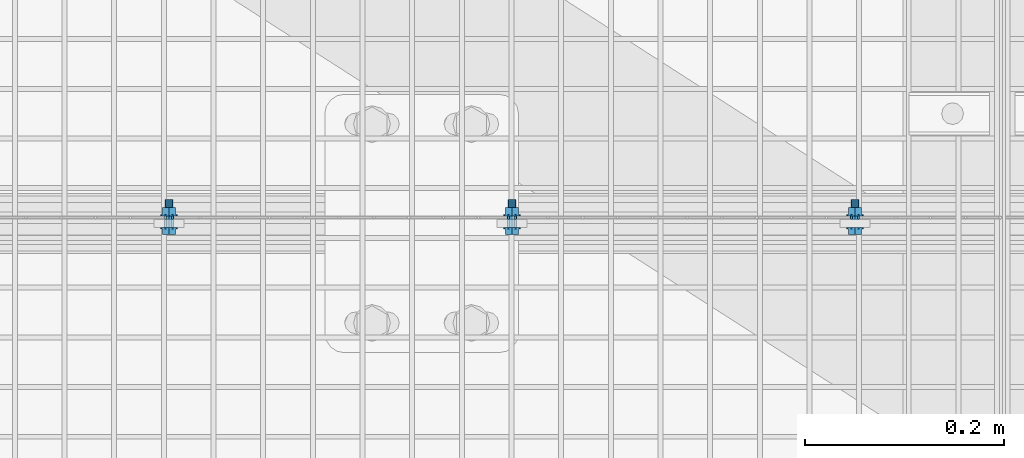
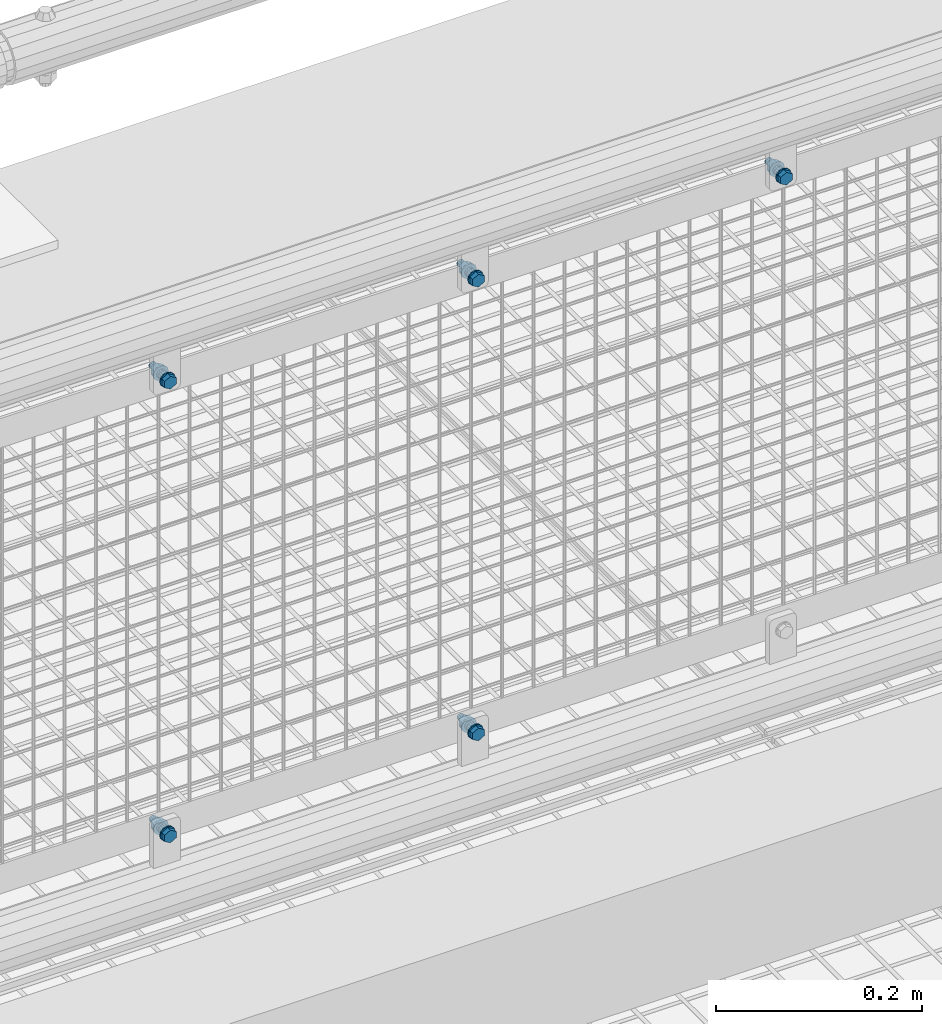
# One storey, part 90 of 1530: 5 mechanical fasteners.
"""IFC2X3 building model written with IfcOpenShell, lengths in millimetres."""

from ifc_helpers import new_model, si_unit, frame, origin_with_axes, place, context, subcontext, project, spatial, faceted_brep, source, transform, mapped, material, type_object, element, save


model = new_model("IFC2X3")

# Units and contexts
model_context = context("Model", 3, precision=1e-05, world=origin_with_axes())
body_context = subcontext(model_context, "Body", "Model", "MODEL_VIEW")
ifc_project = project(units=[si_unit("LENGTHUNIT", "METRE", prefix="MILLI"), si_unit("AREAUNIT", "SQUARE_METRE"), si_unit("VOLUMEUNIT", "CUBIC_METRE"), si_unit("MASSUNIT", "GRAM", prefix="KILO"), si_unit("TIMEUNIT", "SECOND"), si_unit("PLANEANGLEUNIT", "RADIAN"), si_unit("SOLIDANGLEUNIT", "STERADIAN"), si_unit("THERMODYNAMICTEMPERATUREUNIT", "DEGREE_CELSIUS"), si_unit("LUMINOUSINTENSITYUNIT", "LUMEN")], contexts=[model_context])

# Site, building, storey
site_placement = place(None, origin_with_axes())
site = spatial("IfcSite", under=ifc_project, at=site_placement, Name="Brattvåg", CompositionType="ELEMENT")
building_placement = place(site_placement, origin_with_axes())
building = spatial("IfcBuilding", under=site, at=building_placement, Name="Undefined", CompositionType="ELEMENT")
storey_placement = place(building_placement, origin_with_axes())
storey = spatial("IfcBuildingStorey", under=building, at=storey_placement, Name="Undefined", CompositionType="ELEMENT", Elevation=0.0)

# Mechanical fasteners
ifc_material = material(Name="8")
mechanical_fastener_type = type_object("IfcMechanicalFastenerType", Name="Bolt assembly")
shared_shape_1 = source(origin_with_axes(), body_context, "Body", "Brep", [
    faceted_brep([(7.50555349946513, -6.90000021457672, 0.0), (3.75277674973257, -6.90000021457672, 6.5), (-3.75277674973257, -6.90000021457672, 6.5), (-7.50555349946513, -6.90000021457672, 9.19165206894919e-16), (-3.75277674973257, -6.90000021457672, -6.5), (3.75277674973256, -6.90000021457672, -6.5), (3.75277674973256, -1.60000002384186, -6.5), (-3.75277674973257, -1.60000002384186, -6.5), (-7.50555349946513, -1.60000002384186, 9.19165206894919e-16), (-3.75277674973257, -1.60000002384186, 6.5), (3.75277674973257, -1.60000002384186, 6.5), (7.50555349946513, -1.60000002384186, 0.0), (4.0, -1.60000002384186, 0.0), (3.46410161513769, -1.60000002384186, 2.00000000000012), (1.99999999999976, -1.60000002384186, 3.46410161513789), (-4.14534392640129e-13, -1.60000002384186, 4.0), (-2.00000000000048, -1.60000002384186, 3.46410161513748), (-3.4641016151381, -1.60000002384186, 1.9999999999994), (-4.0, -1.60000002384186, -8.29068785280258e-13), (-3.46410161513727, -1.60000002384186, -2.00000000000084), (-1.99999999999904, -1.60000002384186, -3.46410161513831), (1.23916228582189e-12, -1.60000002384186, -4.0), (2.00000000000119, -1.60000002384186, -3.46410161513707), (3.46410161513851, -1.60000002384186, -1.99999999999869), (3.46410161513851, 28.3999999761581, -1.99999999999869), (2.00000000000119, 28.3999999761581, -3.46410161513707), (1.23916228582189e-12, 28.3999999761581, -4.0), (-1.99999999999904, 28.3999999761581, -3.46410161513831), (-3.46410161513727, 28.3999999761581, -2.00000000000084), (-4.0, 28.3999999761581, -8.29068785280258e-13), (-3.4641016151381, 28.3999999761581, 1.9999999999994), (-2.00000000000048, 28.3999999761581, 3.46410161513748), (-4.14534392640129e-13, 28.3999999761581, 4.0), (1.99999999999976, 28.3999999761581, 3.46410161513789), (3.46410161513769, 28.3999999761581, 2.00000000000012), (4.0, 28.3999999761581, 0.0), (8.5, -1.60000002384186, 0.0), (7.36121593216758, -1.60000002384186, 4.25000000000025), (4.24999999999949, -1.60000002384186, 7.36121593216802), (-8.80885584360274e-13, -1.60000002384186, 8.5), (-4.25000000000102, -1.60000002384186, 7.36121593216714), (-7.36121593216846, -1.60000002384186, 4.24999999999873), (-8.5, -1.60000002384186, -1.76177116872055e-12), (-7.3612159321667, -1.60000002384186, -4.25000000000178), (-4.24999999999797, -1.60000002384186, -7.3612159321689), (2.63321985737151e-12, -1.60000002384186, -8.5), (4.25000000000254, -1.60000002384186, -7.36121593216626), (7.36121593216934, -1.60000002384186, -4.24999999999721), (7.36121593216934, 0.0, -4.24999999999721), (4.25000000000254, 0.0, -7.36121593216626), (2.63321985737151e-12, 0.0, -8.5), (-4.24999999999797, 0.0, -7.3612159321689), (-7.3612159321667, 0.0, -4.25000000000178), (-8.5, 0.0, -1.76177116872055e-12), (-7.36121593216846, 0.0, 4.24999999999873), (-4.25000000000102, 0.0, 7.36121593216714), (-8.80885584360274e-13, 0.0, 8.5), (4.24999999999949, 0.0, 7.36121593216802), (7.36121593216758, 0.0, 4.25000000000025), (8.5, 0.0, 0.0), (8.5, 11.5015258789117, 0.0), (7.36121593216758, 11.5015258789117, 4.25000000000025), (4.24999999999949, 11.5015258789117, 7.36121593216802), (-8.80885584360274e-13, 11.5015258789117, 8.5), (-4.25000000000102, 11.5015258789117, 7.36121593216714), (-7.36121593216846, 11.5015258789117, 4.24999999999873), (-8.5, 11.5015258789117, -1.76177116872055e-12), (-7.3612159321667, 11.5015258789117, -4.25000000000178), (-4.24999999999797, 11.5015258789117, -7.3612159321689), (2.63321985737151e-12, 11.5015258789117, -8.5), (4.25000000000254, 11.5015258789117, -7.36121593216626), (7.36121593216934, 11.5015258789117, -4.24999999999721), (7.36121593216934, 13.1015259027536, -4.24999999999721), (4.25000000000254, 13.1015259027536, -7.36121593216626), (2.63321985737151e-12, 13.1015259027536, -8.5), (-4.24999999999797, 13.1015259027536, -7.3612159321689), (-7.3612159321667, 13.1015259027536, -4.25000000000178), (-8.5, 13.1015259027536, -1.76177116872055e-12), (-7.36121593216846, 13.1015259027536, 4.24999999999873), (-4.25000000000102, 13.1015259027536, 7.36121593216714), (-8.80885584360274e-13, 13.1015259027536, 8.5), (4.24999999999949, 13.1015259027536, 7.36121593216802), (7.36121593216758, 13.1015259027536, 4.25000000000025), (8.5, 13.1015259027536, 0.0), (7.50555349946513, 13.1015259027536, 0.0), (3.75277674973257, 13.1015259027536, 6.5), (-3.75277674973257, 13.1015259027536, 6.5), (-7.50555349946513, 13.1015259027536, 9.19165206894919e-16), (-3.75277674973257, 13.1015259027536, -6.5), (3.75277674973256, 13.1015259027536, -6.5), (3.75277674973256, 19.9015260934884, -6.5), (-3.75277674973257, 19.9015260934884, -6.5), (-7.50555349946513, 19.9015260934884, 9.19165206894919e-16), (-3.75277674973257, 19.9015260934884, 6.5), (3.75277674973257, 19.9015260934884, 6.5), (7.50555349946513, 19.9015260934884, 0.0)], [[[0, 1, 2, 3, 4, 5]], [[6, 7, 8, 9, 10, 11]], [[0, 11, 10, 1]], [[1, 10, 9, 2]], [[2, 9, 8, 3]], [[3, 8, 7, 4]], [[4, 7, 6, 5]], [[5, 6, 11, 0]], [[12, 13, 14, 15, 16, 17, 18, 19, 20, 21, 22, 23]], [[24, 25, 26, 27, 28, 29, 30, 31, 32, 33, 34, 35]], [[12, 35, 34, 13]], [[13, 34, 33, 14]], [[14, 33, 32, 15]], [[15, 32, 31, 16]], [[16, 31, 30, 17]], [[17, 30, 29, 18]], [[18, 29, 28, 19]], [[19, 28, 27, 20]], [[20, 27, 26, 21]], [[21, 26, 25, 22]], [[22, 25, 24, 23]], [[23, 24, 35, 12]], [[36, 37, 38, 39, 40, 41, 42, 43, 44, 45, 46, 47]], [[48, 49, 50, 51, 52, 53, 54, 55, 56, 57, 58, 59]], [[36, 59, 58, 37]], [[37, 58, 57, 38]], [[38, 57, 56, 39]], [[39, 56, 55, 40]], [[40, 55, 54, 41]], [[41, 54, 53, 42]], [[42, 53, 52, 43]], [[43, 52, 51, 44]], [[44, 51, 50, 45]], [[45, 50, 49, 46]], [[46, 49, 48, 47]], [[47, 48, 59, 36]], [[60, 61, 62, 63, 64, 65, 66, 67, 68, 69, 70, 71]], [[72, 73, 74, 75, 76, 77, 78, 79, 80, 81, 82, 83]], [[60, 83, 82, 61]], [[61, 82, 81, 62]], [[62, 81, 80, 63]], [[63, 80, 79, 64]], [[64, 79, 78, 65]], [[65, 78, 77, 66]], [[66, 77, 76, 67]], [[67, 76, 75, 68]], [[68, 75, 74, 69]], [[69, 74, 73, 70]], [[70, 73, 72, 71]], [[71, 72, 83, 60]], [[84, 85, 86, 87, 88, 89]], [[90, 91, 92, 93, 94, 95]], [[84, 95, 94, 85]], [[85, 94, 93, 86]], [[86, 93, 92, 87]], [[87, 92, 91, 88]], [[88, 91, 90, 89]], [[89, 90, 95, 84]]]),
    faceted_brep([(5.0, 0.1, 0.0), (4.33012701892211, 0.1, 2.50000000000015), (2.4999999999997, 0.1, 4.33012701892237), (-5.18167990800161e-13, 0.1, 5.0), (-2.5000000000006, 0.1, 4.33012701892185), (-4.33012701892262, 0.1, 2.49999999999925), (-5.0, 0.1, -1.03633598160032e-12), (-4.33012701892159, 0.1, -2.50000000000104), (-2.49999999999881, 0.1, -4.33012701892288), (1.54895285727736e-12, 0.1, -5.0), (2.50000000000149, 0.1, -4.33012701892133), (4.33012701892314, 0.1, -2.49999999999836), (4.33012701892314, 8.1, -2.49999999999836), (2.50000000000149, 8.1, -4.33012701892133), (1.54895285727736e-12, 8.1, -5.0), (-2.49999999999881, 8.1, -4.33012701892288), (-4.33012701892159, 8.1, -2.50000000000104), (-5.0, 8.1, -1.03633598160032e-12), (-4.33012701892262, 8.1, 2.49999999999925), (-2.5000000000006, 8.1, 4.33012701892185), (-5.18167990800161e-13, 8.1, 5.0), (2.4999999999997, 8.1, 4.33012701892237), (4.33012701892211, 8.1, 2.50000000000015), (5.0, 8.1, 0.0), (5.0, 8.40152587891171, 0.0), (4.33012701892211, 8.40152587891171, 2.50000000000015), (2.4999999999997, 8.40152587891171, 4.33012701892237), (-5.18167990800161e-13, 8.40152587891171, 5.0), (-2.5000000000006, 8.40152587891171, 4.33012701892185), (-4.33012701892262, 8.40152587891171, 2.49999999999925), (-5.0, 8.40152587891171, -1.03633598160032e-12), (-4.33012701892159, 8.40152587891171, -2.50000000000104), (-2.49999999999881, 8.40152587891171, -4.33012701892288), (1.54895285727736e-12, 8.40152587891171, -5.0), (2.50000000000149, 8.40152587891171, -4.33012701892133), (4.33012701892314, 8.40152587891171, -2.49999999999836), (4.33012701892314, 11.5015258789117, -2.49999999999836), (2.50000000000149, 11.5015258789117, -4.33012701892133), (1.54895285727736e-12, 11.5015258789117, -5.0), (-2.49999999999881, 11.5015258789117, -4.33012701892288), (-4.33012701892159, 11.5015258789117, -2.50000000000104), (-5.0, 11.5015258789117, -1.03633598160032e-12), (-4.33012701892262, 11.5015258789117, 2.49999999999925), (-2.5000000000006, 11.5015258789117, 4.33012701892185), (-5.18167990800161e-13, 11.5015258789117, 5.0), (2.4999999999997, 11.5015258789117, 4.33012701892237), (4.33012701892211, 11.5015258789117, 2.50000000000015), (5.0, 11.5015258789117, 0.0)], [[[0, 1, 2, 3, 4, 5, 6, 7, 8, 9, 10, 11]], [[12, 13, 14, 15, 16, 17, 18, 19, 20, 21, 22, 23]], [[0, 23, 22, 1]], [[1, 22, 21, 2]], [[2, 21, 20, 3]], [[3, 20, 19, 4]], [[4, 19, 18, 5]], [[5, 18, 17, 6]], [[6, 17, 16, 7]], [[7, 16, 15, 8]], [[8, 15, 14, 9]], [[9, 14, 13, 10]], [[10, 13, 12, 11]], [[11, 12, 23, 0]], [[24, 25, 26, 27, 28, 29, 30, 31, 32, 33, 34, 35]], [[36, 37, 38, 39, 40, 41, 42, 43, 44, 45, 46, 47]], [[24, 47, 46, 25]], [[25, 46, 45, 26]], [[26, 45, 44, 27]], [[27, 44, 43, 28]], [[28, 43, 42, 29]], [[29, 42, 41, 30]], [[30, 41, 40, 31]], [[31, 40, 39, 32]], [[32, 39, 38, 33]], [[33, 38, 37, 34]], [[34, 37, 36, 35]], [[35, 36, 47, 24]]]),
])
for number, where, z_axis, x_axis, name in (
    (1, (9075.85110473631, 7660.49950027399, 889.680069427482), (-1.0, 1.99999855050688e-09, 0.0), (0.0, 0.0, 1.0), "Bolt assembly"),
    (2, (9420.8504180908, 7660.49950027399, 889.680069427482), (-1.0, 1.99999855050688e-09, 0.0), (0.0, 0.0, 1.0), "Bolt assembly"),
    (3, (9765.85163879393, 7660.49950027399, 889.680069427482), (-1.0, 1.99999855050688e-09, 0.0), (0.0, 0.0, 1.0), "Bolt assembly"),
):
    element("IfcMechanicalFastener", number, at=place(storey_placement, frame(where, z_axis=z_axis, x_axis=x_axis)), inside=storey, type_object=mechanical_fastener_type, material=ifc_material, Name=name, NominalDiameter=8.0, NominalLength=30.0, context=body_context, shape_type="MappedRepresentation", body=[
        mapped(shared_shape_1, transform((0.0, 0.0, 0.0))),
    ])
shared_shape_2 = source(origin_with_axes(), body_context, "Body", "Brep", [
    faceted_brep([(7.50555349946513, -6.899000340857, 0.0), (3.75277674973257, -6.899000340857, 6.5), (-3.75277674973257, -6.899000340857, 6.5), (-7.50555349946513, -6.899000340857, 9.19165206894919e-16), (-3.75277674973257, -6.899000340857, -6.5), (3.75277674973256, -6.899000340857, -6.5), (3.75277674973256, -1.59900015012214, -6.5), (-3.75277674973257, -1.59900015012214, -6.5), (-7.50555349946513, -1.59900015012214, 9.19165206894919e-16), (-3.75277674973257, -1.59900015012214, 6.5), (3.75277674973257, -1.59900015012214, 6.5), (7.50555349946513, -1.59900015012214, 0.0), (4.0, -1.59900015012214, 0.0), (3.46410161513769, -1.59900015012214, 2.00000000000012), (1.99999999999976, -1.59900015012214, 3.46410161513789), (-4.14534392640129e-13, -1.59900015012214, 4.0), (-2.00000000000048, -1.59900015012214, 3.46410161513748), (-3.4641016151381, -1.59900015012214, 1.9999999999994), (-4.0, -1.59900015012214, -8.29068785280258e-13), (-3.46410161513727, -1.59900015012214, -2.00000000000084), (-1.99999999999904, -1.59900015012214, -3.46410161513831), (1.23916228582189e-12, -1.59900015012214, -4.0), (2.00000000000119, -1.59900015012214, -3.46410161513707), (3.46410161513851, -1.59900015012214, -1.99999999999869), (3.46410161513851, 28.4009998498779, -1.99999999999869), (2.00000000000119, 28.4009998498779, -3.46410161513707), (1.23916228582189e-12, 28.4009998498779, -4.0), (-1.99999999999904, 28.4009998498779, -3.46410161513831), (-3.46410161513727, 28.4009998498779, -2.00000000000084), (-4.0, 28.4009998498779, -8.29068785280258e-13), (-3.4641016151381, 28.4009998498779, 1.9999999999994), (-2.00000000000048, 28.4009998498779, 3.46410161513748), (-4.14534392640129e-13, 28.4009998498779, 4.0), (1.99999999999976, 28.4009998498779, 3.46410161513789), (3.46410161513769, 28.4009998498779, 2.00000000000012), (4.0, 28.4009998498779, 0.0), (8.5, -1.59900015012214, 0.0), (7.36121593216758, -1.59900015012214, 4.25000000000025), (4.24999999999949, -1.59900015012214, 7.36121593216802), (-8.80885584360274e-13, -1.59900015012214, 8.5), (-4.25000000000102, -1.59900015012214, 7.36121593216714), (-7.36121593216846, -1.59900015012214, 4.24999999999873), (-8.5, -1.59900015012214, -1.76177116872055e-12), (-7.3612159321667, -1.59900015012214, -4.25000000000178), (-4.24999999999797, -1.59900015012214, -7.3612159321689), (2.63321985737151e-12, -1.59900015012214, -8.5), (4.25000000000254, -1.59900015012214, -7.36121593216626), (7.36121593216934, -1.59900015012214, -4.24999999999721), (7.36121593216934, 0.000999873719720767, -4.24999999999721), (4.25000000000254, 0.000999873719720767, -7.36121593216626), (2.63321985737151e-12, 0.000999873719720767, -8.5), (-4.24999999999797, 0.000999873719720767, -7.3612159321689), (-7.3612159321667, 0.000999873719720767, -4.25000000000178), (-8.5, 0.000999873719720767, -1.76177116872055e-12), (-7.36121593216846, 0.000999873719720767, 4.24999999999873), (-4.25000000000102, 0.000999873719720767, 7.36121593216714), (-8.80885584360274e-13, 0.000999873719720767, 8.5), (4.24999999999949, 0.000999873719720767, 7.36121593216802), (7.36121593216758, 0.000999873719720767, 4.25000000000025), (8.5, 0.000999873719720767, 0.0), (8.5, 11.5039814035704, 0.0), (7.36121593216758, 11.5039814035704, 4.25000000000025), (4.24999999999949, 11.5039814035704, 7.36121593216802), (-8.80885584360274e-13, 11.5039814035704, 8.5), (-4.25000000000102, 11.5039814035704, 7.36121593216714), (-7.36121593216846, 11.5039814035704, 4.24999999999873), (-8.5, 11.5039814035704, -1.76177116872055e-12), (-7.3612159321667, 11.5039814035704, -4.25000000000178), (-4.24999999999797, 11.5039814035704, -7.3612159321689), (2.63321985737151e-12, 11.5039814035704, -8.5), (4.25000000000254, 11.5039814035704, -7.36121593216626), (7.36121593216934, 11.5039814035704, -4.24999999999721), (7.36121593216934, 13.1039814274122, -4.24999999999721), (4.25000000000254, 13.1039814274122, -7.36121593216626), (2.63321985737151e-12, 13.1039814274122, -8.5), (-4.24999999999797, 13.1039814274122, -7.3612159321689), (-7.3612159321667, 13.1039814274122, -4.25000000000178), (-8.5, 13.1039814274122, -1.76177116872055e-12), (-7.36121593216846, 13.1039814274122, 4.24999999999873), (-4.25000000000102, 13.1039814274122, 7.36121593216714), (-8.80885584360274e-13, 13.1039814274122, 8.5), (4.24999999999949, 13.1039814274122, 7.36121593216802), (7.36121593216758, 13.1039814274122, 4.25000000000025), (8.5, 13.1039814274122, 0.0), (7.50555349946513, 13.1039814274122, 0.0), (3.75277674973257, 13.1039814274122, 6.5), (-3.75277674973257, 13.1039814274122, 6.5), (-7.50555349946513, 13.1039814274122, 9.19165206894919e-16), (-3.75277674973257, 13.1039814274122, -6.5), (3.75277674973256, 13.1039814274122, -6.5), (3.75277674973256, 19.9039816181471, -6.5), (-3.75277674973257, 19.9039816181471, -6.5), (-7.50555349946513, 19.9039816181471, 9.19165206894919e-16), (-3.75277674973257, 19.9039816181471, 6.5), (3.75277674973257, 19.9039816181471, 6.5), (7.50555349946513, 19.9039816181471, 0.0)], [[[0, 1, 2, 3, 4, 5]], [[6, 7, 8, 9, 10, 11]], [[0, 11, 10, 1]], [[1, 10, 9, 2]], [[2, 9, 8, 3]], [[3, 8, 7, 4]], [[4, 7, 6, 5]], [[5, 6, 11, 0]], [[12, 13, 14, 15, 16, 17, 18, 19, 20, 21, 22, 23]], [[24, 25, 26, 27, 28, 29, 30, 31, 32, 33, 34, 35]], [[12, 35, 34, 13]], [[13, 34, 33, 14]], [[14, 33, 32, 15]], [[15, 32, 31, 16]], [[16, 31, 30, 17]], [[17, 30, 29, 18]], [[18, 29, 28, 19]], [[19, 28, 27, 20]], [[20, 27, 26, 21]], [[21, 26, 25, 22]], [[22, 25, 24, 23]], [[23, 24, 35, 12]], [[36, 37, 38, 39, 40, 41, 42, 43, 44, 45, 46, 47]], [[48, 49, 50, 51, 52, 53, 54, 55, 56, 57, 58, 59]], [[36, 59, 58, 37]], [[37, 58, 57, 38]], [[38, 57, 56, 39]], [[39, 56, 55, 40]], [[40, 55, 54, 41]], [[41, 54, 53, 42]], [[42, 53, 52, 43]], [[43, 52, 51, 44]], [[44, 51, 50, 45]], [[45, 50, 49, 46]], [[46, 49, 48, 47]], [[47, 48, 59, 36]], [[60, 61, 62, 63, 64, 65, 66, 67, 68, 69, 70, 71]], [[72, 73, 74, 75, 76, 77, 78, 79, 80, 81, 82, 83]], [[60, 83, 82, 61]], [[61, 82, 81, 62]], [[62, 81, 80, 63]], [[63, 80, 79, 64]], [[64, 79, 78, 65]], [[65, 78, 77, 66]], [[66, 77, 76, 67]], [[67, 76, 75, 68]], [[68, 75, 74, 69]], [[69, 74, 73, 70]], [[70, 73, 72, 71]], [[71, 72, 83, 60]], [[84, 85, 86, 87, 88, 89]], [[90, 91, 92, 93, 94, 95]], [[84, 95, 94, 85]], [[85, 94, 93, 86]], [[86, 93, 92, 87]], [[87, 92, 91, 88]], [[88, 91, 90, 89]], [[89, 90, 95, 84]]]),
    faceted_brep([(5.0, 0.100999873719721, 0.0), (4.33012701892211, 0.100999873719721, 2.50000000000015), (2.4999999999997, 0.100999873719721, 4.33012701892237), (-5.18167990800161e-13, 0.100999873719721, 5.0), (-2.5000000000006, 0.100999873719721, 4.33012701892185), (-4.33012701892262, 0.100999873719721, 2.49999999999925), (-5.0, 0.100999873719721, -1.03633598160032e-12), (-4.33012701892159, 0.100999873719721, -2.50000000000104), (-2.49999999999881, 0.100999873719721, -4.33012701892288), (1.54895285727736e-12, 0.100999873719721, -5.0), (2.50000000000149, 0.100999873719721, -4.33012701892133), (4.33012701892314, 0.100999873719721, -2.49999999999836), (4.33012701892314, 8.10099988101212, -2.49999999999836), (2.50000000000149, 8.10099988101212, -4.33012701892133), (1.54895285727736e-12, 8.10099988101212, -5.0), (-2.49999999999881, 8.10099988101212, -4.33012701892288), (-4.33012701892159, 8.10099988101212, -2.50000000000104), (-5.0, 8.10099988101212, -1.03633598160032e-12), (-4.33012701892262, 8.10099988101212, 2.49999999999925), (-2.5000000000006, 8.10099988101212, 4.33012701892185), (-5.18167990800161e-13, 8.10099988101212, 5.0), (2.4999999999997, 8.10099988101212, 4.33012701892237), (4.33012701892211, 8.10099988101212, 2.50000000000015), (5.0, 8.10099988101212, 0.0), (5.0, 8.40398140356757, 0.0), (4.33012701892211, 8.40398140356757, 2.50000000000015), (2.4999999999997, 8.40398140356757, 4.33012701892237), (-5.18167990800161e-13, 8.40398140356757, 5.0), (-2.5000000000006, 8.40398140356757, 4.33012701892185), (-4.33012701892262, 8.40398140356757, 2.49999999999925), (-5.0, 8.40398140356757, -1.03633598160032e-12), (-4.33012701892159, 8.40398140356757, -2.50000000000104), (-2.49999999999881, 8.40398140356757, -4.33012701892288), (1.54895285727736e-12, 8.40398140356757, -5.0), (2.50000000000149, 8.40398140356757, -4.33012701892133), (4.33012701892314, 8.40398140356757, -2.49999999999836), (4.33012701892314, 11.5039814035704, -2.49999999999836), (2.50000000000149, 11.5039814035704, -4.33012701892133), (1.54895285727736e-12, 11.5039814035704, -5.0), (-2.49999999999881, 11.5039814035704, -4.33012701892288), (-4.33012701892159, 11.5039814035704, -2.50000000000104), (-5.0, 11.5039814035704, -1.03633598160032e-12), (-4.33012701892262, 11.5039814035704, 2.49999999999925), (-2.5000000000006, 11.5039814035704, 4.33012701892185), (-5.18167990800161e-13, 11.5039814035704, 5.0), (2.4999999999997, 11.5039814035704, 4.33012701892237), (4.33012701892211, 11.5039814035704, 2.50000000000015), (5.0, 11.5039814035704, 0.0)], [[[0, 1, 2, 3, 4, 5, 6, 7, 8, 9, 10, 11]], [[12, 13, 14, 15, 16, 17, 18, 19, 20, 21, 22, 23]], [[0, 23, 22, 1]], [[1, 22, 21, 2]], [[2, 21, 20, 3]], [[3, 20, 19, 4]], [[4, 19, 18, 5]], [[5, 18, 17, 6]], [[6, 17, 16, 7]], [[7, 16, 15, 8]], [[8, 15, 14, 9]], [[9, 14, 13, 10]], [[10, 13, 12, 11]], [[11, 12, 23, 0]], [[24, 25, 26, 27, 28, 29, 30, 31, 32, 33, 34, 35]], [[36, 37, 38, 39, 40, 41, 42, 43, 44, 45, 46, 47]], [[24, 47, 46, 25]], [[25, 46, 45, 26]], [[26, 45, 44, 27]], [[27, 44, 43, 28]], [[28, 43, 42, 29]], [[29, 42, 41, 30]], [[30, 41, 40, 31]], [[31, 40, 39, 32]], [[32, 39, 38, 33]], [[33, 38, 37, 34]], [[34, 37, 36, 35]], [[35, 36, 47, 24]]]),
])
mechanical_fastener_1_placement = place(storey_placement, frame((9075.85076141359, 7660.49843978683, 352.299672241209), z_axis=(-1.0, 1.99999855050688e-09, 0.0), x_axis=(0.0, 0.0, 1.0)))
element("IfcMechanicalFastener", 4, at=mechanical_fastener_1_placement, inside=storey, type_object=mechanical_fastener_type, material=ifc_material, Name="Bolt assembly", NominalDiameter=8.0, NominalLength=30.0, context=body_context, shape_type="MappedRepresentation", body=[
    mapped(shared_shape_2, transform((0.0, 0.0, 0.0))),
])
shared_shape_3 = source(origin_with_axes(), body_context, "Body", "Brep", [
    faceted_brep([(7.50555349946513, -6.899000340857, 0.0), (3.75277674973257, -6.899000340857, 6.5), (-3.75277674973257, -6.899000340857, 6.5), (-7.50555349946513, -6.899000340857, 9.19165206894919e-16), (-3.75277674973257, -6.899000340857, -6.5), (3.75277674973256, -6.899000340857, -6.5), (3.75277674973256, -1.59900015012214, -6.5), (-3.75277674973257, -1.59900015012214, -6.5), (-7.50555349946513, -1.59900015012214, 9.19165206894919e-16), (-3.75277674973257, -1.59900015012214, 6.5), (3.75277674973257, -1.59900015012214, 6.5), (7.50555349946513, -1.59900015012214, 0.0), (4.0, -1.59900015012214, 0.0), (3.46410161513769, -1.59900015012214, 2.00000000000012), (1.99999999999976, -1.59900015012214, 3.46410161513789), (-4.14534392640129e-13, -1.59900015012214, 4.0), (-2.00000000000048, -1.59900015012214, 3.46410161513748), (-3.4641016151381, -1.59900015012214, 1.9999999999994), (-4.0, -1.59900015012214, -8.29068785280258e-13), (-3.46410161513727, -1.59900015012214, -2.00000000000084), (-1.99999999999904, -1.59900015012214, -3.46410161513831), (1.23916228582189e-12, -1.59900015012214, -4.0), (2.00000000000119, -1.59900015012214, -3.46410161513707), (3.46410161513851, -1.59900015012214, -1.99999999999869), (3.46410161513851, 28.4009998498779, -1.99999999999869), (2.00000000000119, 28.4009998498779, -3.46410161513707), (1.23916228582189e-12, 28.4009998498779, -4.0), (-1.99999999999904, 28.4009998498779, -3.46410161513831), (-3.46410161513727, 28.4009998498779, -2.00000000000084), (-4.0, 28.4009998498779, -8.29068785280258e-13), (-3.4641016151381, 28.4009998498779, 1.9999999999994), (-2.00000000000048, 28.4009998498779, 3.46410161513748), (-4.14534392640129e-13, 28.4009998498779, 4.0), (1.99999999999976, 28.4009998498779, 3.46410161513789), (3.46410161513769, 28.4009998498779, 2.00000000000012), (4.0, 28.4009998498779, 0.0), (8.5, -1.59900015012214, 0.0), (7.36121593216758, -1.59900015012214, 4.25000000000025), (4.24999999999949, -1.59900015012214, 7.36121593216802), (-8.80885584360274e-13, -1.59900015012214, 8.5), (-4.25000000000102, -1.59900015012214, 7.36121593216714), (-7.36121593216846, -1.59900015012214, 4.24999999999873), (-8.5, -1.59900015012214, -1.76177116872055e-12), (-7.3612159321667, -1.59900015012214, -4.25000000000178), (-4.24999999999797, -1.59900015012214, -7.3612159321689), (2.63321985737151e-12, -1.59900015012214, -8.5), (4.25000000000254, -1.59900015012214, -7.36121593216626), (7.36121593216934, -1.59900015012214, -4.24999999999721), (7.36121593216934, 0.000999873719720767, -4.24999999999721), (4.25000000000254, 0.000999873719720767, -7.36121593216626), (2.63321985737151e-12, 0.000999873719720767, -8.5), (-4.24999999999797, 0.000999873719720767, -7.3612159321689), (-7.3612159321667, 0.000999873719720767, -4.25000000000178), (-8.5, 0.000999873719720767, -1.76177116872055e-12), (-7.36121593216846, 0.000999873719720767, 4.24999999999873), (-4.25000000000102, 0.000999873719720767, 7.36121593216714), (-8.80885584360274e-13, 0.000999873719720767, 8.5), (4.24999999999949, 0.000999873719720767, 7.36121593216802), (7.36121593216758, 0.000999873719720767, 4.25000000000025), (8.5, 0.000999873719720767, 0.0), (8.5, 11.5035404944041, 0.0), (7.36121593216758, 11.5035404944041, 4.25000000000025), (4.24999999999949, 11.5035404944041, 7.36121593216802), (-8.80885584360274e-13, 11.5035404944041, 8.5), (-4.25000000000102, 11.5035404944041, 7.36121593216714), (-7.36121593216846, 11.5035404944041, 4.24999999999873), (-8.5, 11.5035404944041, -1.76177116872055e-12), (-7.3612159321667, 11.5035404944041, -4.25000000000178), (-4.24999999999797, 11.5035404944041, -7.3612159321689), (2.63321985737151e-12, 11.5035404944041, -8.5), (4.25000000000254, 11.5035404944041, -7.36121593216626), (7.36121593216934, 11.5035404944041, -4.24999999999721), (7.36121593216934, 13.1035405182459, -4.24999999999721), (4.25000000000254, 13.1035405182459, -7.36121593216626), (2.63321985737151e-12, 13.1035405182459, -8.5), (-4.24999999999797, 13.1035405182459, -7.3612159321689), (-7.3612159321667, 13.1035405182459, -4.25000000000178), (-8.5, 13.1035405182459, -1.76177116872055e-12), (-7.36121593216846, 13.1035405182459, 4.24999999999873), (-4.25000000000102, 13.1035405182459, 7.36121593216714), (-8.80885584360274e-13, 13.1035405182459, 8.5), (4.24999999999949, 13.1035405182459, 7.36121593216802), (7.36121593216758, 13.1035405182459, 4.25000000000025), (8.5, 13.1035405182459, 0.0), (7.50555349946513, 13.1035405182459, 0.0), (3.75277674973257, 13.1035405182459, 6.5), (-3.75277674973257, 13.1035405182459, 6.5), (-7.50555349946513, 13.1035405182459, 9.19165206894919e-16), (-3.75277674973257, 13.1035405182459, -6.5), (3.75277674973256, 13.1035405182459, -6.5), (3.75277674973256, 19.9035407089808, -6.5), (-3.75277674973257, 19.9035407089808, -6.5), (-7.50555349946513, 19.9035407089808, 9.19165206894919e-16), (-3.75277674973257, 19.9035407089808, 6.5), (3.75277674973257, 19.9035407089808, 6.5), (7.50555349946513, 19.9035407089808, 0.0)], [[[0, 1, 2, 3, 4, 5]], [[6, 7, 8, 9, 10, 11]], [[0, 11, 10, 1]], [[1, 10, 9, 2]], [[2, 9, 8, 3]], [[3, 8, 7, 4]], [[4, 7, 6, 5]], [[5, 6, 11, 0]], [[12, 13, 14, 15, 16, 17, 18, 19, 20, 21, 22, 23]], [[24, 25, 26, 27, 28, 29, 30, 31, 32, 33, 34, 35]], [[12, 35, 34, 13]], [[13, 34, 33, 14]], [[14, 33, 32, 15]], [[15, 32, 31, 16]], [[16, 31, 30, 17]], [[17, 30, 29, 18]], [[18, 29, 28, 19]], [[19, 28, 27, 20]], [[20, 27, 26, 21]], [[21, 26, 25, 22]], [[22, 25, 24, 23]], [[23, 24, 35, 12]], [[36, 37, 38, 39, 40, 41, 42, 43, 44, 45, 46, 47]], [[48, 49, 50, 51, 52, 53, 54, 55, 56, 57, 58, 59]], [[36, 59, 58, 37]], [[37, 58, 57, 38]], [[38, 57, 56, 39]], [[39, 56, 55, 40]], [[40, 55, 54, 41]], [[41, 54, 53, 42]], [[42, 53, 52, 43]], [[43, 52, 51, 44]], [[44, 51, 50, 45]], [[45, 50, 49, 46]], [[46, 49, 48, 47]], [[47, 48, 59, 36]], [[60, 61, 62, 63, 64, 65, 66, 67, 68, 69, 70, 71]], [[72, 73, 74, 75, 76, 77, 78, 79, 80, 81, 82, 83]], [[60, 83, 82, 61]], [[61, 82, 81, 62]], [[62, 81, 80, 63]], [[63, 80, 79, 64]], [[64, 79, 78, 65]], [[65, 78, 77, 66]], [[66, 77, 76, 67]], [[67, 76, 75, 68]], [[68, 75, 74, 69]], [[69, 74, 73, 70]], [[70, 73, 72, 71]], [[71, 72, 83, 60]], [[84, 85, 86, 87, 88, 89]], [[90, 91, 92, 93, 94, 95]], [[84, 95, 94, 85]], [[85, 94, 93, 86]], [[86, 93, 92, 87]], [[87, 92, 91, 88]], [[88, 91, 90, 89]], [[89, 90, 95, 84]]]),
    faceted_brep([(5.0, 0.100999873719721, 0.0), (4.33012701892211, 0.100999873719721, 2.50000000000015), (2.4999999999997, 0.100999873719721, 4.33012701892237), (-5.18167990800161e-13, 0.100999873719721, 5.0), (-2.5000000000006, 0.100999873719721, 4.33012701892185), (-4.33012701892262, 0.100999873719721, 2.49999999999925), (-5.0, 0.100999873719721, -1.03633598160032e-12), (-4.33012701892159, 0.100999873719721, -2.50000000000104), (-2.49999999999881, 0.100999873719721, -4.33012701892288), (1.54895285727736e-12, 0.100999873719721, -5.0), (2.50000000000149, 0.100999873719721, -4.33012701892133), (4.33012701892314, 0.100999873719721, -2.49999999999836), (4.33012701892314, 8.10099988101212, -2.49999999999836), (2.50000000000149, 8.10099988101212, -4.33012701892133), (1.54895285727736e-12, 8.10099988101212, -5.0), (-2.49999999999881, 8.10099988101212, -4.33012701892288), (-4.33012701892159, 8.10099988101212, -2.50000000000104), (-5.0, 8.10099988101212, -1.03633598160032e-12), (-4.33012701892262, 8.10099988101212, 2.49999999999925), (-2.5000000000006, 8.10099988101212, 4.33012701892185), (-5.18167990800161e-13, 8.10099988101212, 5.0), (2.4999999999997, 8.10099988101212, 4.33012701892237), (4.33012701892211, 8.10099988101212, 2.50000000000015), (5.0, 8.10099988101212, 0.0), (5.0, 8.40354049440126, 0.0), (4.33012701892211, 8.40354049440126, 2.50000000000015), (2.4999999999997, 8.40354049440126, 4.33012701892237), (-5.18167990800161e-13, 8.40354049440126, 5.0), (-2.5000000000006, 8.40354049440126, 4.33012701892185), (-4.33012701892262, 8.40354049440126, 2.49999999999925), (-5.0, 8.40354049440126, -1.03633598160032e-12), (-4.33012701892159, 8.40354049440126, -2.50000000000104), (-2.49999999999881, 8.40354049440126, -4.33012701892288), (1.54895285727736e-12, 8.40354049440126, -5.0), (2.50000000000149, 8.40354049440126, -4.33012701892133), (4.33012701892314, 8.40354049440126, -2.49999999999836), (4.33012701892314, 11.5035404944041, -2.49999999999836), (2.50000000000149, 11.5035404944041, -4.33012701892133), (1.54895285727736e-12, 11.5035404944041, -5.0), (-2.49999999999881, 11.5035404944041, -4.33012701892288), (-4.33012701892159, 11.5035404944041, -2.50000000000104), (-5.0, 11.5035404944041, -1.03633598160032e-12), (-4.33012701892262, 11.5035404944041, 2.49999999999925), (-2.5000000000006, 11.5035404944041, 4.33012701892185), (-5.18167990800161e-13, 11.5035404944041, 5.0), (2.4999999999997, 11.5035404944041, 4.33012701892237), (4.33012701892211, 11.5035404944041, 2.50000000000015), (5.0, 11.5035404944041, 0.0)], [[[0, 1, 2, 3, 4, 5, 6, 7, 8, 9, 10, 11]], [[12, 13, 14, 15, 16, 17, 18, 19, 20, 21, 22, 23]], [[0, 23, 22, 1]], [[1, 22, 21, 2]], [[2, 21, 20, 3]], [[3, 20, 19, 4]], [[4, 19, 18, 5]], [[5, 18, 17, 6]], [[6, 17, 16, 7]], [[7, 16, 15, 8]], [[8, 15, 14, 9]], [[9, 14, 13, 10]], [[10, 13, 12, 11]], [[11, 12, 23, 0]], [[24, 25, 26, 27, 28, 29, 30, 31, 32, 33, 34, 35]], [[36, 37, 38, 39, 40, 41, 42, 43, 44, 45, 46, 47]], [[24, 47, 46, 25]], [[25, 46, 45, 26]], [[26, 45, 44, 27]], [[27, 44, 43, 28]], [[28, 43, 42, 29]], [[29, 42, 41, 30]], [[30, 41, 40, 31]], [[31, 40, 39, 32]], [[32, 39, 38, 33]], [[33, 38, 37, 34]], [[34, 37, 36, 35]], [[35, 36, 47, 24]]]),
])
mechanical_fastener_2_placement = place(storey_placement, frame((9420.85007476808, 7660.49843978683, 352.299672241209), z_axis=(-1.0, 1.99999855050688e-09, 0.0), x_axis=(0.0, 0.0, 1.0)))
element("IfcMechanicalFastener", 5, at=mechanical_fastener_2_placement, inside=storey, type_object=mechanical_fastener_type, material=ifc_material, Name="Bolt assembly", NominalDiameter=8.0, NominalLength=30.0, context=body_context, shape_type="MappedRepresentation", body=[
    mapped(shared_shape_3, transform((0.0, 0.0, 0.0))),
])

save(model, "model.ifc")
